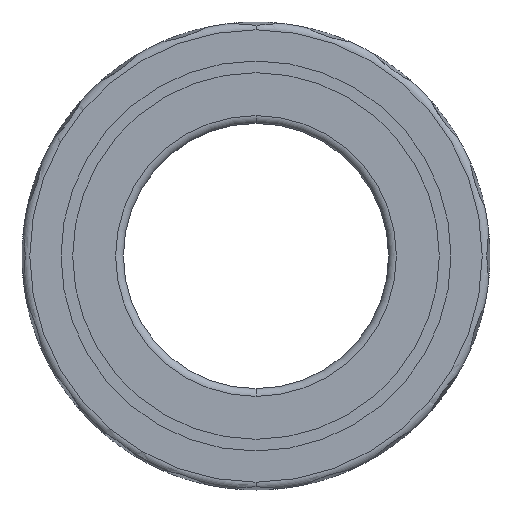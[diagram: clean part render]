
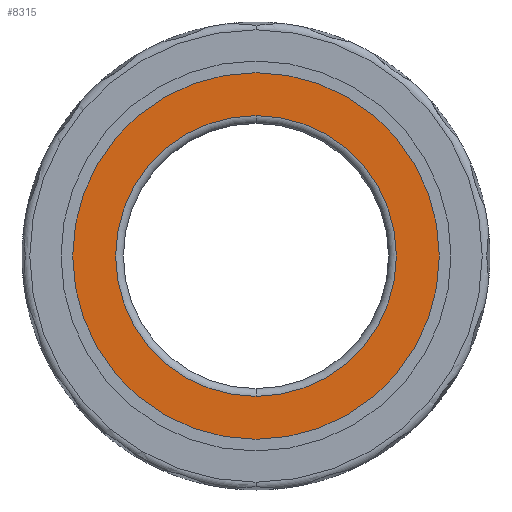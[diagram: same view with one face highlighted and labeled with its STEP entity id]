
A CAD part, front view. The second image highlights one B-rep face of the part: STEP entity #8315.
In plain terms, the highlighted planar face has unit normal (0, -1, 0).
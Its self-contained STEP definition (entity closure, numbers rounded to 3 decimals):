
#150 = CARTESIAN_POINT ( 'NONE',  ( 16698.326, 2686.626, 0. ) ) ;
#253 = CARTESIAN_POINT ( 'NONE',  ( 16698.326, 2686.626, -11.75 ) ) ;
#785 = PLANE ( 'NONE',  #6079 ) ;
#975 = EDGE_LOOP ( 'NONE', ( #3512, #6399 ) ) ;
#1099 = CARTESIAN_POINT ( 'NONE',  ( 16698.326, 2686.626, 0. ) ) ;
#1353 = CARTESIAN_POINT ( 'NONE',  ( 16698.326, 2686.626, 0. ) ) ;
#1403 = AXIS2_PLACEMENT_3D ( 'NONE', #1099, #6470, #6393 ) ;
#1576 = CARTESIAN_POINT ( 'NONE',  ( 16698.326, 2686.626, -9. ) ) ;
#1709 = CARTESIAN_POINT ( 'NONE',  ( 16698.326, 2686.626, 9. ) ) ;
#1853 = VERTEX_POINT ( 'NONE', #1709 ) ;
#2219 = DIRECTION ( 'NONE',  ( 0., -1., 0. ) ) ;
#2537 = CARTESIAN_POINT ( 'NONE',  ( 16686.576, 2686.626, 0. ) ) ;
#3512 = ORIENTED_EDGE ( 'NONE', *, *, #7474, .F. ) ;
#4032 = EDGE_CURVE ( 'NONE', #9395, #9522, #7627, .T. ) ;
#4286 = DIRECTION ( 'NONE',  ( 0., -1., 0. ) ) ;
#4378 = VERTEX_POINT ( 'NONE', #1576 ) ;
#4860 = AXIS2_PLACEMENT_3D ( 'NONE', #1353, #2219, #8415 ) ;
#5216 = CARTESIAN_POINT ( 'NONE',  ( 16698.326, 2686.626, 0. ) ) ;
#5261 = FACE_BOUND ( 'NONE', #975, .T. ) ;
#5630 = CIRCLE ( 'NONE', #10787, 11.75 ) ;
#6040 = EDGE_CURVE ( 'NONE', #1853, #4378, #8124, .T. ) ;
#6079 = AXIS2_PLACEMENT_3D ( 'NONE', #2537, #11420, #8805 ) ;
#6393 = DIRECTION ( 'NONE',  ( 0., 0., -1. ) ) ;
#6399 = ORIENTED_EDGE ( 'NONE', *, *, #6040, .F. ) ;
#6470 = DIRECTION ( 'NONE',  ( 0., -1., 0. ) ) ;
#6628 = EDGE_CURVE ( 'NONE', #9522, #9395, #5630, .T. ) ;
#6991 = CARTESIAN_POINT ( 'NONE',  ( 16698.326, 2686.626, 11.75 ) ) ;
#7474 = EDGE_CURVE ( 'NONE', #4378, #1853, #8720, .T. ) ;
#7606 = AXIS2_PLACEMENT_3D ( 'NONE', #150, #8177, #8985 ) ;
#7627 = CIRCLE ( 'NONE', #7606, 11.75 ) ;
#7809 = DIRECTION ( 'NONE',  ( 0., 0., -1. ) ) ;
#7818 = ORIENTED_EDGE ( 'NONE', *, *, #6628, .T. ) ;
#7891 = FACE_OUTER_BOUND ( 'NONE', #11235, .T. ) ;
#8124 = CIRCLE ( 'NONE', #4860, 9. ) ;
#8177 = DIRECTION ( 'NONE',  ( 0., -1., 0. ) ) ;
#8315 = ADVANCED_FACE ( 'NONE', ( #5261, #7891 ), #785, .F. ) ;
#8415 = DIRECTION ( 'NONE',  ( 0., 0., -1. ) ) ;
#8720 = CIRCLE ( 'NONE', #1403, 9. ) ;
#8805 = DIRECTION ( 'NONE',  ( 0., 0., 1. ) ) ;
#8985 = DIRECTION ( 'NONE',  ( 0., 0., -1. ) ) ;
#9395 = VERTEX_POINT ( 'NONE', #6991 ) ;
#9522 = VERTEX_POINT ( 'NONE', #253 ) ;
#10787 = AXIS2_PLACEMENT_3D ( 'NONE', #5216, #4286, #7809 ) ;
#11198 = ORIENTED_EDGE ( 'NONE', *, *, #4032, .T. ) ;
#11235 = EDGE_LOOP ( 'NONE', ( #7818, #11198 ) ) ;
#11420 = DIRECTION ( 'NONE',  ( 0., 1., 0. ) ) ;
